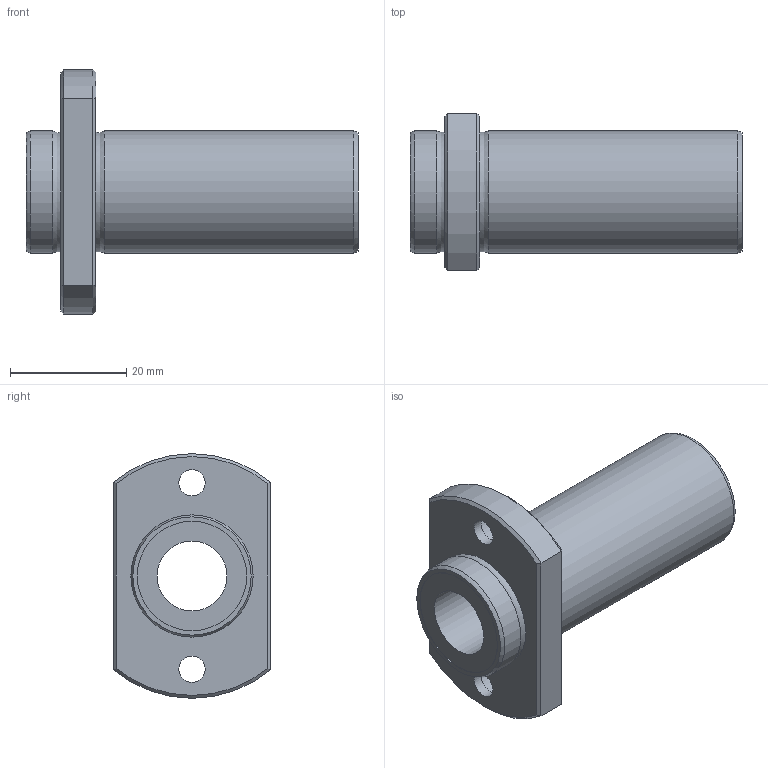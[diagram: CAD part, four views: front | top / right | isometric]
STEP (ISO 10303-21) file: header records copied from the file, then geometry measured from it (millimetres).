
FILE_DESCRIPTION((''),'2;1');
FILE_NAME('D:\製品 (図面)\カタログ用3D\リニアベアリング関連\STEP形式\LFDTB\LFDTB12.stp','2010-06-03T09:50:13',('Tsuchiya'),(''),'Autodesk Inventor 10','Autodesk Inventor 10','');
FILE_SCHEMA(('AUTOMOTIVE_DESIGN { 1 0 10303 214 1 1 1 1 }'));
Length unit declared in the file: millimetre
Products named in the file (1): LFDTB12
Bounding box: 57 x 27 x 42 mm (x, y, z)
Volume: 16913 mm3; surface area: 8255.5 mm2
Topology: 1 solids, 1 shells, 33 faces, 63 edges, 38 vertices
Faces by surface type: plane 12, bspline 8, cylinder 7, cone 4, torus 2
Full cylindrical faces by diameter (mm): 12 x1, 18.8 x2, 21 x2
Entity records: 977 total; most frequent: CARTESIAN_POINT 344, DIRECTION 124, ORIENTED_EDGE 100, EDGE_LOOP 58, AXIS2_PLACEMENT_3D 56, EDGE_CURVE 50, VERTEX_POINT 38, FACE_OUTER_BOUND 33
